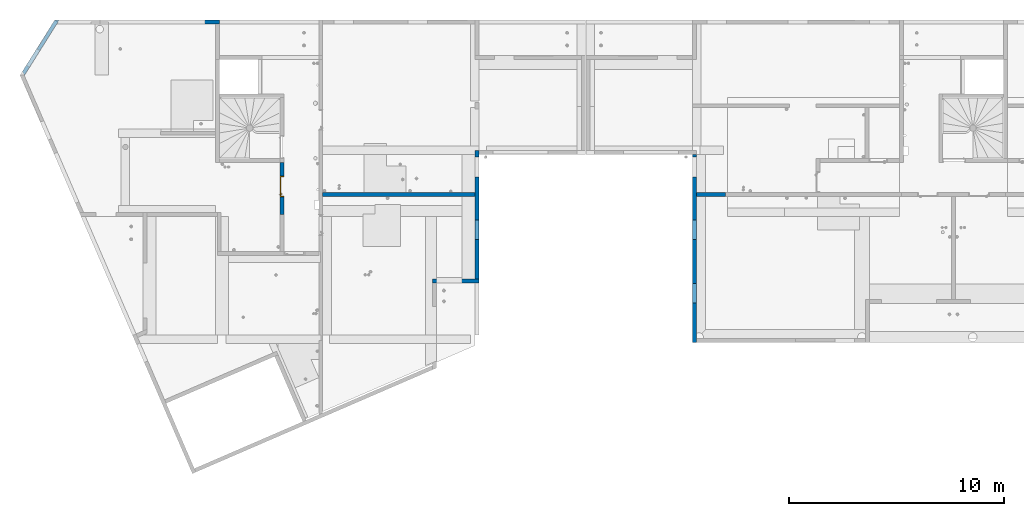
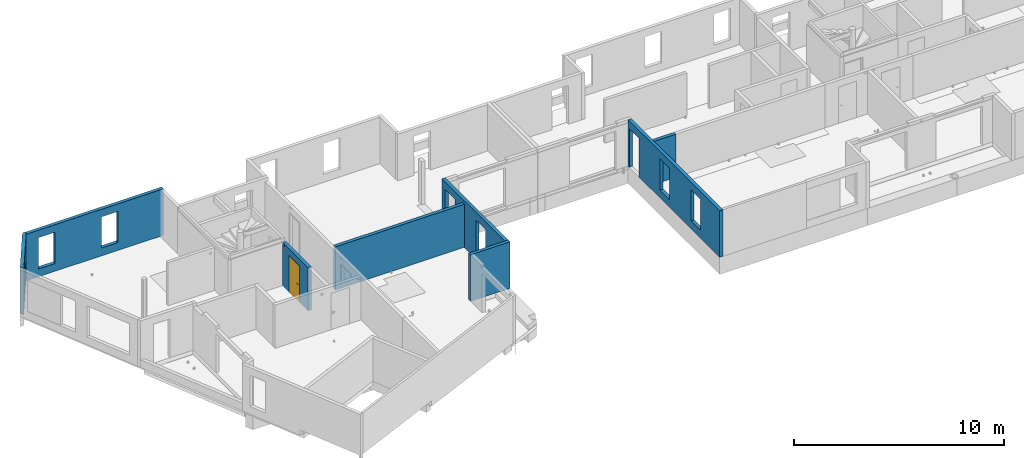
# One storey, part 6 of 34: 8 walls, 1 door, 15 openings.
"""IFC2X3 building model written with IfcOpenShell, lengths in centimetres."""

from ifc_helpers import new_model, entity, si_unit, converted_unit, derived_unit, direction, frame, frame_2d, origin, origin_2d_with_axis, place, context, subcontext, project, spatial, polyline, rectangle, outline, extrude, faceted_brep, source, transform, mapped, material, material_list, layer, layer_set, layer_usage, type_object, type_shapes, element, fill, save


model = new_model("IFC2X3")

# Units and contexts
model_context = context("Model", 3, precision=0.001, world=origin(), true_north=direction((6.12303176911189e-17, 1.0)))
body_context = subcontext(model_context, "Body", "Model", "MODEL_VIEW")
ifc_project = project(units=[si_unit("LENGTHUNIT", "METRE", prefix="CENTI"), si_unit("AREAUNIT", "SQUARE_METRE"), si_unit("VOLUMEUNIT", "CUBIC_METRE"), converted_unit("PLANEANGLEUNIT", "DEGREE", entity("IfcRatioMeasure", 0.0174532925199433), si_unit("PLANEANGLEUNIT", "RADIAN"), dimensions=[0, 0, 0, 0, 0, 0, 0]), si_unit("MASSUNIT", "GRAM", prefix="KILO"), derived_unit("MASSDENSITYUNIT", [(si_unit("MASSUNIT", "GRAM", prefix="KILO"), 1), (si_unit("LENGTHUNIT", "METRE"), -3)]), si_unit("TIMEUNIT", "SECOND"), si_unit("FREQUENCYUNIT", "HERTZ"), si_unit("THERMODYNAMICTEMPERATUREUNIT", "DEGREE_CELSIUS"), derived_unit("THERMALTRANSMITTANCEUNIT", [(si_unit("MASSUNIT", "GRAM", prefix="KILO"), 1), (si_unit("THERMODYNAMICTEMPERATUREUNIT", "KELVIN"), -1), (si_unit("TIMEUNIT", "SECOND"), -3)]), derived_unit("VOLUMETRICFLOWRATEUNIT", [(si_unit("LENGTHUNIT", "METRE"), 3), (si_unit("TIMEUNIT", "SECOND"), -1)]), si_unit("ELECTRICCURRENTUNIT", "AMPERE"), si_unit("ELECTRICVOLTAGEUNIT", "VOLT"), si_unit("POWERUNIT", "WATT"), si_unit("FORCEUNIT", "NEWTON"), si_unit("ILLUMINANCEUNIT", "LUX"), si_unit("LUMINOUSFLUXUNIT", "LUMEN"), si_unit("LUMINOUSINTENSITYUNIT", "CANDELA"), derived_unit("USERDEFINED", [(si_unit("MASSUNIT", "GRAM", prefix="KILO"), -1), (si_unit("LENGTHUNIT", "METRE"), -2), (si_unit("TIMEUNIT", "SECOND"), 3), (si_unit("LUMINOUSFLUXUNIT", "LUMEN"), 1)]), derived_unit("LINEARVELOCITYUNIT", [(si_unit("LENGTHUNIT", "METRE"), 1), (si_unit("TIMEUNIT", "SECOND"), -1)]), si_unit("PRESSUREUNIT", "PASCAL"), derived_unit("USERDEFINED", [(si_unit("LENGTHUNIT", "METRE"), -2), (si_unit("MASSUNIT", "GRAM", prefix="KILO"), 1), (si_unit("TIMEUNIT", "SECOND"), -2)])], contexts=[model_context])

# Site, building, storey
site_placement = place(None, origin())
site = spatial("IfcSite", under=ifc_project, at=site_placement, Name="Default", CompositionType="ELEMENT")
building_placement = place(site_placement, origin())
building = spatial("IfcBuilding", under=site, at=building_placement, Name="CAGE 03", CompositionType="ELEMENT")
storey_placement = place(building_placement, frame((0.0, 0.0, 340.0)))
storey = spatial("IfcBuildingStorey", under=building, at=storey_placement, Name="R+1", CompositionType="ELEMENT", Elevation=340.0)

# Wall, openings
ifc_material_1 = material(Name="Béton, C25/30")
ifc_layer = layer(ifc_material_1, 18.0)
ifc_layer_set = layer_set([ifc_layer], Name="Mur de base:Voile BA 18")
ifc_layer_usage_1 = layer_usage(ifc_layer_set, "AXIS2", "NEGATIVE", 9.0)
wall_type = type_object("IfcWallType", Name="Mur de base:Voile BA 18", PredefinedType="STANDARD", material=ifc_layer_set)
wall_1_placement = place(storey_placement, frame((2759.68470555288, 5040.14221656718, 0.0), z_axis=(0.0, 0.0, 1.0), x_axis=(0.53179185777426, 0.846875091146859, 0.0)))
wall_1 = element("IfcWallStandardCase", 1, at=wall_1_placement, inside=storey, type_object=wall_type, material=ifc_layer_usage_1, Name="Mur de base:Voile BA 18", ObjectType="Mur de base:Voile BA 18", context=body_context, shape_type="SweptSolid", body=[
    extrude(outline(polyline([(305.009060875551, -9.0), (293.706032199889, 9.0), (12.3599581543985, 9.0), (1.11302087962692, -7.37909031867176), (0.0, -9.0), (283.754450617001, -9.0), (293.706032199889, -9.0), (305.009060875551, -9.0)])), origin(), (0.0, 0.0, 1.0), 270.0),
])
opening_1_placement = place(wall_1_placement, origin())
element("IfcOpeningElement", 2, at=opening_1_placement, cuts=wall_1, Name="Mur de base:Voile BA 18", ObjectType="Recess", context=body_context, shape_type="SweptSolid", body=[
    extrude(rectangle(XDim=181.0, YDim=102.0, at=frame_2d((-5.6843418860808e-14, -3.62376795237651e-13), x_axis=(1.0, 0.0))), frame((187.615479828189, 7.0, 135.499999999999), z_axis=(0.0, 1.0, 0.0), x_axis=(0.0, 0.0, -1.0)), (0.0, 0.0, 1.0), 1.99999999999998),
])
opening_2_placement = place(wall_1_placement, frame((-5735.94875548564, -343.198356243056, 0.0), z_axis=(0.0, 0.0, 1.0), x_axis=(0.53179185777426, -0.846875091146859, 0.0)))
element("IfcOpeningElement", 3, at=opening_2_placement, cuts=wall_1, Name="Mur de base:Voile BA 18", ObjectType="Opening", context=body_context, shape_type="SweptSolid", body=[
    extrude(rectangle(XDim=181.0, YDim=91.0, at=frame_2d((0.0, 4.83169060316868e-13), x_axis=(1.0, 0.0))), frame((2929.58106391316, 5041.04669444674, 135.5), z_axis=(-0.846875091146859, 0.53179185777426, 0.0), x_axis=(0.0, 0.0, 1.0)), (0.0, 0.0, 1.0), 304.8),
])

ifc_layer_usage_2 = layer_usage(ifc_layer_set, "AXIS2", "NEGATIVE", 9.0)
wall_2_placement = place(storey_placement, frame((2918.20488781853, 5284.66066607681, 0.0)))
wall_2 = element("IfcWallStandardCase", 4, at=wall_2_placement, inside=storey, type_object=wall_type, material=ifc_layer_usage_2, Name="Mur de base:Voile BA 18", ObjectType="Mur de base:Voile BA 18", context=body_context, shape_type="SweptSolid", body=[
    extrude(outline(polyline([(754.160932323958, -9.0), (754.160932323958, 9.0), (688.160932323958, 9.0), (199.160932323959, 9.0), (11.3030286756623, 9.0), (5.29217005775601, -0.572253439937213), (0.0, -9.0), (159.160932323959, -9.0), (239.160932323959, -9.0), (688.160932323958, -9.0), (736.160932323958, -9.0), (754.160932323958, -9.0)])), origin(), (0.0, 0.0, 1.0), 270.0),
])
opening_3_placement = place(wall_2_placement, origin())
element("IfcOpeningElement", 5, at=opening_3_placement, cuts=wall_2, Name="Mur de base:Voile BA 18", ObjectType="Recess", context=body_context, shape_type="SweptSolid", body=[
    extrude(rectangle(XDim=181.0, YDim=184.0, at=frame_2d((5.6843418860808e-14, 0.0), x_axis=(1.0, 0.0))), frame((596.160932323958, 7.0, 135.5), z_axis=(0.0, 1.0, 0.0), x_axis=(0.0, 0.0, -1.0)), (0.0, 0.0, 1.0), 1.99999999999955),
])
opening_4_placement = place(wall_2_placement, origin())
element("IfcOpeningElement", 6, at=opening_4_placement, cuts=wall_2, Name="Mur de base:Voile BA 18", ObjectType="Recess", context=body_context, shape_type="SweptSolid", body=[
    extrude(rectangle(XDim=181.0, YDim=184.0, at=frame_2d((-5.6843418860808e-14, 0.0), x_axis=(1.0, 0.0))), frame((251.160932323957, 7.0, 135.499999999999), z_axis=(0.0, 1.0, 0.0), x_axis=(0.0, 0.0, -1.0)), (0.0, 0.0, 1.0), 1.99999999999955),
])
opening_5_placement = place(wall_2_placement, frame((-2918.20488781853, -5284.66066607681, 0.0)))
element("IfcOpeningElement", 7, at=opening_5_placement, cuts=wall_2, Name="Mur de base:Voile BA 18", ObjectType="Opening", context=body_context, shape_type="SweptSolid", body=[
    extrude(rectangle(XDim=181.0, YDim=91.0000000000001, at=origin_2d_with_axis()), frame((3376.86582014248, 5123.26066607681, 135.5), z_axis=(0.0, 1.0, 0.0), x_axis=(0.0, 0.0, 1.0)), (0.0, 0.0, 1.0), 304.8),
])
opening_6_placement = place(wall_2_placement, frame((-2918.20488781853, -5284.66066607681, 0.0)))
element("IfcOpeningElement", 8, at=opening_6_placement, cuts=wall_2, Name="Mur de base:Voile BA 18", ObjectType="Opening", context=body_context, shape_type="SweptSolid", body=[
    extrude(rectangle(XDim=181.0, YDim=91.0000000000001, at=origin_2d_with_axis()), frame((3031.86582014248, 5123.26066607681, 135.5), z_axis=(0.0, 1.0, 0.0), x_axis=(0.0, 0.0, 1.0)), (0.0, 0.0, 1.0), 304.8),
])

# Wall
ifc_layer_usage_3 = layer_usage(ifc_layer_set, "AXIS2", "POSITIVE", -9.0)
wall_3_placement = place(storey_placement, frame((4662.36582014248, 4081.16066607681, 0.0)))
element("IfcWallStandardCase", 9, at=wall_3_placement, inside=storey, type_object=wall_type, material=ifc_layer_usage_3, Name="Mur de base:Voile BA 18", ObjectType="Mur de base:Voile BA 18", context=body_context, shape_type="SweptSolid", body=[
    extrude(rectangle(XDim=216.0, YDim=17.9999999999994, at=frame_2d((108.0, -7.63833440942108e-14), x_axis=(-1.0, 0.0))), origin(), (0.0, 0.0, 1.0), 270.0),
])

# Wall, openings
ifc_layer_usage_4 = layer_usage(ifc_layer_set, "AXIS2", "POSITIVE", -9.0)
wall_4_placement = place(storey_placement, frame((4869.36582014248, 4090.16066607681, 0.0), z_axis=(0.0, 0.0, 1.0), x_axis=(0.0, 1.0, 0.0)))
wall_4 = element("IfcWallStandardCase", 10, at=wall_4_placement, inside=storey, type_object=wall_type, material=ifc_layer_usage_4, Name="Mur de base:Voile BA 18", ObjectType="Mur de base:Voile BA 18", context=body_context, shape_type="SweptSolid", body=[
    extrude(rectangle(XDim=596.5, YDim=17.9999999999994, at=frame_2d((298.25, 1.57207580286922e-13), x_axis=(-1.0, 0.0))), origin(), (0.0, 0.0, 1.0), 270.0),
])
opening_7_placement = place(wall_4_placement, origin())
element("IfcOpeningElement", 11, at=opening_7_placement, cuts=wall_4, Name="Mur de base:Voile BA 18", ObjectType="Opening", context=body_context, shape_type="SweptSolid", body=[
    extrude(rectangle(XDim=226.0, YDim=91.0000000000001, at=frame_2d((-5.6843418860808e-14, 0.0), x_axis=(1.0, 0.0))), frame((521.0, -143.4, 383.0), z_axis=(0.0, 1.0, 0.0), x_axis=(0.0, 0.0, 1.0)), (0.0, 0.0, 1.0), 304.8),
])
opening_8_placement = place(wall_4_placement, frame((-4090.16066607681, 4869.36582014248, 0.0), z_axis=(0.0, 0.0, 1.0), x_axis=(0.0, -1.0, 0.0)))
element("IfcOpeningElement", 12, at=opening_8_placement, cuts=wall_4, Name="Mur de base:Voile BA 18", ObjectType="Opening", context=body_context, shape_type="SweptSolid", body=[
    extrude(rectangle(XDim=226.0, YDim=91.0000000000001, at=frame_2d((5.6843418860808e-14, 0.0), x_axis=(1.0, 0.0))), frame((5012.76582014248, 4611.16066607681, 113.0), z_axis=(-1.0, 0.0, 0.0), x_axis=(0.0, 0.0, 1.0)), (0.0, 0.0, 1.0), 304.8),
])
opening_9_placement = place(wall_4_placement, frame((-4090.16066607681, 4869.36582014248, 0.0), z_axis=(0.0, 0.0, 1.0), x_axis=(0.0, -1.0, 0.0)))
element("IfcOpeningElement", 13, at=opening_9_placement, cuts=wall_4, Name="Mur de base:Voile BA 18", ObjectType="Opening", context=body_context, shape_type="SweptSolid", body=[
    extrude(rectangle(XDim=181.0, YDim=91.0000000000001, at=origin_2d_with_axis()), frame((5012.76582014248, 4320.16066607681, 135.5), z_axis=(-1.0, 0.0, 0.0), x_axis=(0.0, 0.0, 1.0)), (0.0, 0.0, 1.0), 304.8),
])

ifc_layer_usage_5 = layer_usage(ifc_layer_set, "AXIS2", "POSITIVE", -9.0)
wall_5_placement = place(storey_placement, frame((5879.36582014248, 4668.6606660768, 0.0), z_axis=(0.0, 0.0, 1.0), x_axis=(0.0, -1.0, 0.0)))
wall_5 = element("IfcWallStandardCase", 14, at=wall_5_placement, inside=storey, type_object=wall_type, material=ifc_layer_usage_5, Name="Mur de base:Voile BA 18", ObjectType="Mur de base:Voile BA 18", context=body_context, shape_type="SweptSolid", body=[
    extrude(rectangle(XDim=871.999999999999, YDim=17.9999999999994, at=frame_2d((435.999999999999, 2.16715534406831e-13), x_axis=(-1.0, 0.0))), origin(), (0.0, 0.0, 1.0), 270.0),
])
opening_10_placement = place(wall_5_placement, origin())
element("IfcOpeningElement", 15, at=opening_10_placement, cuts=wall_5, Name="Mur de base:Voile BA 18", ObjectType="Opening", context=body_context, shape_type="SweptSolid", body=[
    extrude(rectangle(XDim=226.0, YDim=91.0000000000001, at=frame_2d((0.0, -5.6843418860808e-14), x_axis=(0.0, 1.0))), frame((57.4999999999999, -143.4, 383.0), z_axis=(0.0, 1.0, 0.0), x_axis=(-1.0, 0.0, 0.0)), (0.0, 0.0, 1.0), 304.8),
])
opening_11_placement = place(wall_5_placement, frame((4668.6606660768, -5879.36582014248, 0.0), z_axis=(0.0, 0.0, 1.0), x_axis=(0.0, 1.0, 0.0)))
element("IfcOpeningElement", 16, at=opening_11_placement, cuts=wall_5, Name="Mur de base:Voile BA 18", ObjectType="Opening", context=body_context, shape_type="SweptSolid", body=[
    extrude(rectangle(XDim=226.0, YDim=91.0000000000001, at=frame_2d((0.0, 0.0), x_axis=(0.0, 1.0))), frame((5735.96582014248, 4611.1606660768, 113.0), z_axis=(1.0, 0.0, 0.0), x_axis=(0.0, 1.0, 0.0)), (0.0, 0.0, 1.0), 304.8),
])
opening_12_placement = place(wall_5_placement, frame((4668.6606660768, -5879.36582014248, 0.0), z_axis=(0.0, 0.0, 1.0), x_axis=(0.0, 1.0, 0.0)))
element("IfcOpeningElement", 17, at=opening_12_placement, cuts=wall_5, Name="Mur de base:Voile BA 18", ObjectType="Opening", context=body_context, shape_type="SweptSolid", body=[
    extrude(rectangle(XDim=181.0, YDim=91.0000000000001, at=frame_2d((0.0, 0.0), x_axis=(0.0, 1.0))), frame((5735.96582014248, 4025.16066607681, 135.5), z_axis=(1.0, 0.0, 0.0), x_axis=(0.0, 1.0, 0.0)), (0.0, 0.0, 1.0), 304.8),
])
opening_13_placement = place(wall_5_placement, frame((4668.6606660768, -5879.36582014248, 0.0), z_axis=(0.0, 0.0, 1.0), x_axis=(0.0, 1.0, 0.0)))
element("IfcOpeningElement", 18, at=opening_13_placement, cuts=wall_5, Name="Mur de base:Voile BA 18", ObjectType="Opening", context=body_context, shape_type="SweptSolid", body=[
    extrude(rectangle(XDim=181.0, YDim=91.0000000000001, at=frame_2d((0.0, 0.0), x_axis=(0.0, 1.0))), frame((5735.96582014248, 4320.1606660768, 135.5), z_axis=(1.0, 0.0, 0.0), x_axis=(0.0, 1.0, 0.0)), (0.0, 0.0, 1.0), 304.8),
])

# Walls
ifc_layer_usage_6 = layer_usage(ifc_layer_set, "AXIS2", "NEGATIVE", 9.0)
wall_6_placement = place(storey_placement, frame((4152.36582014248, 4483.66066607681, 0.0)))
element("IfcWallStandardCase", 19, at=wall_6_placement, inside=storey, type_object=wall_type, material=ifc_layer_usage_6, Name="Mur de base:Voile BA 18", ObjectType="Mur de base:Voile BA 18", context=body_context, shape_type="SweptSolid", body=[
    extrude(rectangle(XDim=708.000000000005, YDim=17.9999999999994, at=frame_2d((354.000000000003, 2.16715534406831e-13), x_axis=(-1.0, 0.0))), origin(), (0.0, 0.0, 1.0), 250.0),
])
ifc_layer_usage_7 = layer_usage(ifc_layer_set, "AXIS2", "NEGATIVE", 9.0)
wall_7_placement = place(storey_placement, frame((5888.36582014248, 4483.6606660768, 0.0)))
element("IfcWallStandardCase", 20, at=wall_7_placement, inside=storey, type_object=wall_type, material=ifc_layer_usage_7, Name="Mur de base:Voile BA 18", ObjectType="Mur de base:Voile BA 18", context=body_context, shape_type="SweptSolid", body=[
    extrude(rectangle(XDim=134.0, YDim=17.9999999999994, at=frame_2d((66.9999999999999, 2.19380069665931e-13), x_axis=(-1.0, 0.0))), origin(), (0.0, 0.0, 1.0), 250.0),
])

# Wall, openings, door
ifc_layer_usage_8 = layer_usage(ifc_layer_set, "AXIS2", "NEGATIVE", 9.0)
wall_8_placement = place(storey_placement, frame((3963.36582014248, 4632.66066607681, 0.0), z_axis=(0.0, 0.0, 1.0), x_axis=(0.0, -1.0, 0.0)))
wall_8 = element("IfcWallStandardCase", 21, at=wall_8_placement, inside=storey, type_object=wall_type, material=ifc_layer_usage_8, Name="Mur de base:Voile BA 18", ObjectType="Mur de base:Voile BA 18", context=body_context, shape_type="SweptSolid", body=[
    extrude(rectangle(XDim=242.0, YDim=17.9999999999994, at=frame_2d((121.0, 1.92734717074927e-13), x_axis=(-1.0, 0.0))), origin(), (0.0, 0.0, 1.0), 250.0),
])
opening_14_placement = place(wall_8_placement, origin())
element("IfcOpeningElement", 22, at=opening_14_placement, cuts=wall_8, Name="Mur de base:Voile BA 18", ObjectType="Opening", context=body_context, shape_type="SweptSolid", body=[
    extrude(rectangle(XDim=10.0, YDim=19.9999999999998, at=frame_2d((5.41788836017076e-14, -4.33431068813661e-13), x_axis=(1.0, 0.0))), frame((10.0, -9.0, 242.5), z_axis=(0.0, 1.0, 0.0), x_axis=(0.0, 0.0, -1.0)), (0.0, 0.0, 1.0), 17.9999999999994),
])
opening_15_placement = place(wall_8_placement, frame((161.0, 9.0, 0.0)))
opening_15 = element("IfcOpeningElement", 23, at=opening_15_placement, cuts=wall_8, Name="Int. Simple:HB93:1", ObjectType="Opening", context=body_context, shape_type="SweptSolid", body=[
    extrude(rectangle(XDim=210.000000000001, YDim=96.9999999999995, at=frame_2d((105.000000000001, 48.4999999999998), x_axis=(1.0, 0.0))), frame((0.0, 0.0, 0.0), z_axis=(0.0, -1.0, 0.0), x_axis=(0.0, 0.0, 1.0)), (0.0, 0.0, 1.0), 18.0),
])
ifc_material_2 = material(Name="Finition Peinture - Blanc satiné")
ifc_material_3 = material(Name="Bois - Panneau de porte")
ifc_material_4 = material(Name="Bois - Cadre de porte")
ifc_material_list_1 = material_list([ifc_material_2, ifc_material_3, ifc_material_4])
ifc_material_list_2 = material_list([ifc_material_2, ifc_material_3, ifc_material_4])
door_style = type_object("IfcDoorStyle", Name="HB93", ConstructionType="NOTDEFINED", OperationType="SINGLE_SWING_RIGHT", ParameterTakesPrecedence=False, Sizeable=False, material=ifc_material_list_2)
shared_shape = source(origin(), body_context, "Body", "Brep", [
    faceted_brep([(96.5000000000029, -0.500000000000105, 87.0), (96.5000000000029, -0.500000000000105, 108.0), (95.535276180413, -0.500000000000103, 108.399601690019), (94.5000000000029, -0.500000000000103, 108.535898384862), (93.4647238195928, -0.500000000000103, 108.399601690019), (92.5000000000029, -0.500000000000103, 108.0), (92.5000000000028, -0.500000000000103, 87.0), (93.4647238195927, -0.500000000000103, 86.6003983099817), (94.5000000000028, -0.500000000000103, 86.464101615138), (95.5352761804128, -0.500000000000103, 86.6003983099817), (96.5000000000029, 0.0, 108.0), (96.5000000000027, 0.0, 87.0), (95.5352761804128, 0.0, 86.6003983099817), (94.5000000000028, 0.0, 86.464101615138), (93.4647238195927, 0.0, 86.6003983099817), (92.5000000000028, 0.0, 87.0), (92.5000000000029, 0.0, 108.0), (93.4647238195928, 0.0, 108.399601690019), (94.5000000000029, 0.0, 108.535898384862), (95.535276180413, 0.0, 108.399601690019)], [[[0, 1, 2, 3, 4, 5, 6, 7, 8, 9]], [[10, 11, 12, 13, 14, 15, 16, 17, 18, 19]], [[9, 12, 11, 0]], [[8, 13, 12, 9]], [[7, 14, 13, 8]], [[7, 6, 15, 14]], [[15, 6, 5, 16]], [[4, 17, 16, 5]], [[3, 18, 17, 4]], [[2, 19, 18, 3]], [[2, 1, 10, 19]], [[11, 10, 1, 0]]]),
    faceted_brep([(96.5000000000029, 4.0, 87.0), (96.5000000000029, 4.0, 108.0), (95.535276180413, 4.0, 108.399601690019), (94.5000000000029, 4.0, 108.535898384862), (93.4647238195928, 4.0, 108.399601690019), (92.500000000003, 4.0, 108.0), (92.5000000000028, 4.0, 87.0), (93.4647238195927, 4.0, 86.6003983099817), (94.5000000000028, 4.0, 86.464101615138), (95.5352761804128, 4.0, 86.6003983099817), (94.5000000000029, 4.49999999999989, 108.535898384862), (95.535276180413, 4.49999999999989, 108.399601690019), (96.5000000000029, 4.49999999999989, 108.0), (96.5000000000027, 4.49999999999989, 87.0), (95.5352761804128, 4.49999999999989, 86.6003983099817), (94.5000000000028, 4.49999999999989, 86.464101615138), (93.4647238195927, 4.49999999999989, 86.6003983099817), (92.5000000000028, 4.4999999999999, 87.0), (92.5000000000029, 4.4999999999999, 108.0), (93.4647238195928, 4.49999999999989, 108.399601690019)], [[[0, 1, 2, 3, 4, 5, 6, 7, 8, 9]], [[10, 11, 12, 13, 14, 15, 16, 17, 18, 19]], [[4, 19, 18, 5]], [[3, 10, 19, 4]], [[2, 11, 10, 3]], [[2, 1, 12, 11]], [[13, 12, 1, 0]], [[9, 14, 13, 0]], [[8, 15, 14, 9]], [[7, 16, 15, 8]], [[7, 6, 17, 16]], [[17, 6, 5, 18]]]),
    faceted_brep([(94.2974701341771, -0.500000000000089, 100.778044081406), (94.7025298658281, -0.500000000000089, 100.778044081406), (95.100000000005, -0.500000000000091, 100.699999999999), (95.100000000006, -0.500000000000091, 99.2999999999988), (94.7025298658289, -0.500000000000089, 99.221955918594), (94.297470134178, -0.500000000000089, 99.2219559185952), (93.9000000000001, -0.500000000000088, 99.3000000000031), (93.9000000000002, -0.500000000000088, 100.7), (94.7025298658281, -3.10045754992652, 100.778044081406), (95.1000000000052, -3.26509507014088, 100.7), (94.2974701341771, -2.93267631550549, 100.778044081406), (92.9298602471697, -4.30028620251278, 100.778044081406), (93.0976414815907, -4.70534593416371, 100.778044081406), (93.9000000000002, -2.76803879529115, 100.7), (93.9000000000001, -2.76803879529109, 99.3000000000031), (94.297470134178, -2.93267631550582, 99.2219559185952), (94.7025298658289, -3.10045754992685, 99.221955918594), (93.0976414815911, -4.70534593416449, 99.221955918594), (92.9298602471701, -4.30028620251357, 99.2219559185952), (95.100000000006, -3.26509507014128, 99.2999999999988), (93.2622790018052, -5.1028160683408, 100.7), (92.7652227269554, -3.90281606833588, 100.7), (92.7652227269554, -3.90281606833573, 99.3000000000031), (93.2622790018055, -5.10281606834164, 99.2999999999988), (84.4981359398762, -5.10281606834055, 100.7), (84.4981359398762, -4.70534593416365, 100.778044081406), (84.4981359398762, -4.30028620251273, 100.778044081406), (84.4981359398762, -3.90281606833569, 100.699999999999), (84.4981359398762, -3.90281606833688, 99.3000000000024), (84.4981359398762, -4.30028620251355, 99.2219559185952), (84.4981359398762, -4.70534593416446, 99.221955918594), (84.4981359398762, -5.10281606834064, 99.2999999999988), (88.7139980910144, -4.5028160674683, 100.78786867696), (89.2692302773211, -5.1028160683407, 100.7), (88.6316793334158, -3.90281606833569, 100.7), (88.631679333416, -3.90281606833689, 99.3000000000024), (88.7139981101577, -4.50281607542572, 99.2121313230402), (89.2692310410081, -5.10281606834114, 99.2999999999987)], [[[0, 1, 2, 3, 4, 5, 6, 7]], [[2, 1, 8, 9]], [[1, 0, 10, 11, 12, 8]], [[0, 7, 13, 10]], [[14, 13, 7, 6]], [[5, 15, 14, 6]], [[5, 4, 16, 17, 18, 15]], [[3, 19, 16, 4]], [[9, 19, 3, 2]], [[9, 8, 12, 20]], [[10, 13, 21, 11]], [[22, 21, 13, 14]], [[14, 15, 18, 22]], [[16, 19, 23, 17]], [[20, 23, 19, 9]], [[24, 25, 26, 27, 28, 29, 30, 31]], [[32, 25, 33]], [[33, 25, 24]], [[33, 20, 12]], [[11, 34, 32]], [[34, 11, 21]], [[27, 26, 34]], [[32, 26, 25]], [[32, 34, 26]], [[32, 33, 12]], [[11, 32, 12]], [[21, 22, 35, 28, 27, 34]], [[36, 29, 35]], [[30, 36, 37]], [[18, 35, 22]], [[29, 28, 35]], [[30, 37, 31]], [[37, 17, 23]], [[36, 17, 37]], [[36, 18, 17]], [[36, 35, 18]], [[29, 36, 30]], [[23, 20, 33, 24, 31, 37]]]),
    faceted_brep([(94.2974701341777, 4.49999999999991, 99.2219559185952), (94.7025298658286, 4.49999999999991, 99.221955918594), (95.1000000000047, 4.49999999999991, 99.2999999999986), (95.1000000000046, 4.49999999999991, 100.7), (94.7025298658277, 4.49999999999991, 100.778044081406), (94.2974701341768, 4.49999999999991, 100.778044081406), (93.8999999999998, 4.49999999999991, 100.7), (93.900000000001, 4.49999999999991, 99.3000000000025), (93.8999999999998, 6.7485204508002, 100.7), (93.8999999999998, 6.74852045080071, 99.3000000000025), (94.2974701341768, 6.91315797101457, 100.778044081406), (94.7025298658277, 7.0809392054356, 100.778044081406), (93.0838906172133, 8.69957845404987, 100.778044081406), (92.9161093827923, 8.29451872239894, 100.778044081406), (95.1000000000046, 7.24557672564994, 100.7), (95.1000000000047, 7.24557672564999, 99.2999999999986), (94.7025298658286, 7.08093920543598, 99.221955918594), (94.2974701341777, 6.91315797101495, 99.2219559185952), (92.9161093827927, 8.29451872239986, 99.2219559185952), (93.0838906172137, 8.69957845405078, 99.221955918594), (92.751471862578, 7.89704858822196, 100.7), (92.7514718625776, 7.89704858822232, 99.3000000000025), (93.2485281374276, 9.09704858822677, 100.7), (93.2485281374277, 9.09704858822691, 99.2999999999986), (84.4954216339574, 8.29451872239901, 100.778044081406), (84.4954216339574, 8.69957845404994, 100.778044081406), (84.4954216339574, 9.09704858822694, 100.7), (84.4954216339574, 9.09704858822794, 99.2999999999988), (84.4954216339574, 8.6995784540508, 99.221955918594), (84.4954216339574, 8.29451872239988, 99.2219559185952), (84.4954216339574, 7.89704858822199, 99.3000000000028), (84.4954216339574, 7.89704858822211, 100.7), (88.6234467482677, 7.89704858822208, 100.7), (88.6234479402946, 7.89704858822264, 99.3000000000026), (88.7057655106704, 8.49704858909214, 100.78786867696), (89.255479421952, 9.09704858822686, 100.7), (89.2554795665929, 9.09704858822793, 99.2999999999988), (88.7057654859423, 8.49704858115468, 99.2121313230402)], [[[0, 1, 2, 3, 4, 5, 6, 7]], [[8, 9, 7, 6]], [[5, 10, 8, 6]], [[5, 4, 11, 12, 13, 10]], [[3, 14, 11, 4]], [[14, 3, 2, 15]], [[2, 1, 16, 15]], [[1, 0, 17, 18, 19, 16]], [[0, 7, 9, 17]], [[20, 21, 9, 8]], [[8, 10, 13, 20]], [[14, 22, 12, 11]], [[23, 22, 14, 15]], [[15, 16, 19, 23]], [[17, 9, 21, 18]], [[24, 25, 26, 27, 28, 29, 30, 31]], [[21, 20, 32, 31, 30, 33]], [[34, 24, 32]], [[25, 34, 35]], [[13, 32, 20]], [[24, 31, 32]], [[25, 35, 26]], [[35, 12, 22]], [[34, 12, 35]], [[34, 13, 12]], [[34, 32, 13]], [[24, 34, 25]], [[22, 23, 36, 27, 26, 35]], [[37, 28, 36]], [[36, 28, 27]], [[36, 23, 19]], [[18, 33, 37]], [[33, 18, 21]], [[30, 29, 33]], [[37, 29, 28]], [[37, 33, 29]], [[37, 36, 19]], [[18, 37, 19]]]),
    faceted_brep([(100.500000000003, 4.0, 206.5), (100.500000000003, 4.0, 0.0), (10.5000000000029, 4.0, 0.0), (10.5000000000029, 4.0, 206.5), (100.500000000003, 0.0, 206.5), (10.5000000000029, 0.0, 206.5), (10.5000000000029, 0.0, 0.0), (100.500000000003, 0.0, 0.0)], [[[0, 1, 2, 3]], [[4, 5, 6, 7]], [[3, 5, 4, 0]], [[2, 6, 5, 3]], [[1, 7, 6, 2]], [[0, 4, 7, 1]]]),
    faceted_brep([(104.0, 0.0, 0.0), (100.500000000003, 0.0, 0.0), (100.500000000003, 4.0, 0.0), (99.0, 4.0, 0.0), (99.0, 18.0, 0.0), (104.0, 18.0, 0.0), (104.0, 18.0, 210.0), (104.0, 0.0, 210.0), (99.0, 18.0, 205.0), (12.0, 18.0, 205.0), (12.0, 18.0, 0.0), (7.0, 18.0, 0.0), (7.0, 18.0, 210.0), (99.0, 4.0, 205.0), (100.500000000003, 4.0, 206.5), (10.5000000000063, 4.0, 206.5), (10.5000000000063, 4.0, 0.0), (12.0, 4.0, 0.0), (12.0, 4.0, 205.0), (100.500000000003, 0.0, 206.5), (7.0, 0.0, 210.0), (7.0, 0.0, 0.0), (10.5000000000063, 0.0, 0.0), (10.5000000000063, 0.0, 206.5)], [[[0, 1, 2, 3, 4, 5]], [[5, 6, 7, 0]], [[4, 8, 9, 10, 11, 12, 6, 5]], [[3, 13, 8, 4]], [[2, 14, 15, 16, 17, 18, 13, 3]], [[1, 19, 14, 2]], [[0, 7, 20, 21, 22, 23, 19, 1]], [[12, 11, 21, 20]], [[21, 11, 10, 17, 16, 22]], [[18, 17, 10, 9]], [[23, 22, 16, 15]], [[6, 12, 20, 7]], [[13, 18, 9, 8]], [[19, 23, 15, 14]]]),
    faceted_brep([(102.500000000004, 18.0, 0.0), (102.500000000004, 18.5000000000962, 0.0), (105.500000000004, 18.5000000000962, 0.0), (105.500000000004, 18.0, 0.0), (105.500000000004, 18.0, 211.500000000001), (5.50000000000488, 18.0, 211.500000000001), (5.50000000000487, 18.0, 0.0), (8.50000000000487, 18.0, 0.0), (8.50000000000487, 18.0, 208.500000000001), (102.500000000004, 18.0, 208.500000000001), (105.500000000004, 18.5000000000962, 211.500000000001), (102.500000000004, 18.5000000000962, 208.500000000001), (8.50000000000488, 18.5000000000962, 208.500000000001), (8.50000000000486, 18.5000000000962, 0.0), (5.50000000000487, 18.5000000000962, 0.0), (5.50000000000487, 18.5000000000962, 211.500000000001)], [[[0, 1, 2, 3]], [[3, 4, 5, 6, 7, 8, 9, 0]], [[2, 10, 4, 3]], [[1, 11, 12, 13, 14, 15, 10, 2]], [[0, 9, 11, 1]], [[7, 6, 14, 13]], [[8, 7, 13, 12]], [[15, 14, 6, 5]], [[10, 15, 5, 4]], [[9, 8, 12, 11]]]),
    faceted_brep([(105.500000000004, -0.5, 0.0), (105.500000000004, -0.5, 211.500000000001), (5.50000000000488, -0.5, 211.500000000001), (5.50000000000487, -0.5, 0.0), (8.50000000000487, -0.5, 0.0), (8.50000000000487, -0.5, 208.500000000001), (102.500000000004, -0.5, 208.500000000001), (102.500000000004, -0.5, 0.0), (105.500000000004, 0.0, 0.0), (105.500000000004, 0.0, 211.500000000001), (102.500000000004, 0.0, 0.0), (102.500000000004, 0.0, 208.500000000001), (8.50000000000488, 0.0, 208.500000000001), (8.50000000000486, 0.0, 0.0), (5.50000000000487, 0.0, 0.0), (5.50000000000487, 0.0, 211.500000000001)], [[[0, 1, 2, 3, 4, 5, 6, 7]], [[8, 9, 1, 0]], [[10, 11, 12, 13, 14, 15, 9, 8]], [[7, 6, 11, 10]], [[5, 4, 13, 12]], [[15, 14, 3, 2]], [[9, 15, 2, 1]], [[6, 5, 12, 11]], [[4, 3, 14, 13]], [[7, 10, 8, 0]]]),
])
type_shapes(door_style, [shared_shape])
door_placement = place(opening_15_placement, frame((-104.0, -18.0, 0.0)))
door = element("IfcDoor", 24, at=door_placement, inside=storey, type_object=door_style, material=ifc_material_list_1, Name="Int. Simple:HB93", ObjectType="HB93", OverallHeight=210.000000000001, OverallWidth=96.9999999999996, context=body_context, shape_type="MappedRepresentation", body=[
    mapped(shared_shape, transform((0.0, 0.0, 0.0), scale=1.0)),
])
fill(opening_15, door)

save(model, "model.ifc")
